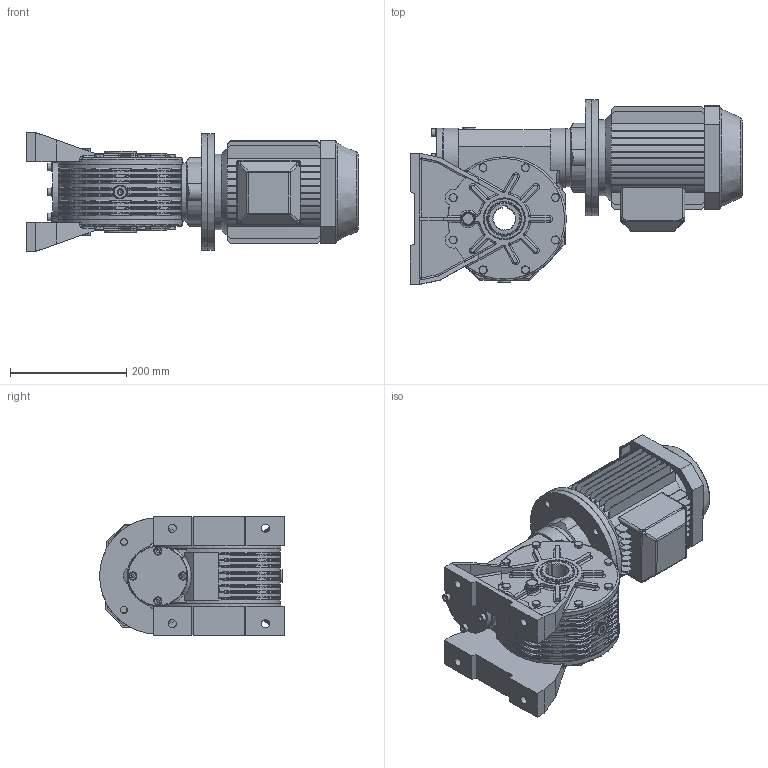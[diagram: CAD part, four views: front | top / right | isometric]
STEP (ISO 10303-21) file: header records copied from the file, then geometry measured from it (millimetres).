
FILE_DESCRIPTION((''),'2;1');
FILE_NAME('Y:\Archivi Inventor\Prog_01\GRAND_50\complessivi\Figurini\MRV50 sito\90l\mrv50_P3_90L_B5.stp','2013-02-06T15:31:39',('tech3'),(''),'Autodesk Inventor 2013','Autodesk Inventor 2013','');
FILE_SCHEMA(('AUTOMOTIVE_DESIGN { 1 0 10303 214 1 1 1 1 }'));
Length unit declared in the file: millimetre
Products named in the file (18): mrv50_80_90l_90s_b5; mrv50_fig; Figurino_carcassa_MRV50; 0105028; 0105029; figurino_corona_MRV50; figurino_0105010; Guarnizione 3_8 GAS; Tappo 3_8 GAS_esagn_incsst; Tappo3_8 GAS; figurino_0105009; ISO 4017 M8 x 20; 55_70_8; UNI 6592 8.4 x 14; UNI 5931  M 8 x  25; 0105006; ISO 4762 M8 x 20; motori B5 90L
Assembly tree (50 placements, depth 3):
  mrv50_80_90l_90s_b5
    mrv50_fig
      Figurino_carcassa_MRV50
      0105028  x2
      0105029  x2
      figurino_corona_MRV50
      figurino_0105010  x2
      Guarnizione 3_8 GAS  x4
      Tappo 3_8 GAS_esagn_incsst  x2
      Tappo3_8 GAS  x2
      figurino_0105009
      ISO 4017 M8 x 20  x16
      55_70_8  x2
      UNI 6592 8.4 x 14  x4
      UNI 5931  M 8 x  25  x4
    0105006
    ISO 4762 M8 x 20  x4
    motori B5 90L
Bounding box: 570.35 x 317.5 x 203.7 mm (x, y, z)
Volume: 11634303.1 mm3; surface area: 1302958.1 mm2
Topology: 61 solids, 63 shells, 2185 faces, 5225 edges, 3088 vertices
Faces by surface type: plane 889, cylinder 673, cone 216, torus 175, bspline 162, sphere 70
Full cylindrical faces by diameter (mm): 2 x2, 6.647 x24, 8 x26, 8.4 x4, 8.5 x48, 11.63 x16, 12 x8, 13 x12, 13.046 x2, 14 x8, 14.95 x4, 16.3 x4, 16.5 x2, 22 x8, 24 x3, 55 x1, 60 x1, 66.4 x2, 69 x2, 70 x5, 72 x4, 73 x2, 75 x1, 99.5 x2, 100 x1, 101 x1, 102 x2, 114.4 x1, 124 x1, 130 x3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
Entity records: 52262 total; most frequent: CARTESIAN_POINT 17459, DIRECTION 7224, ORIENTED_EDGE 6670, EDGE_CURVE 3335, AXIS2_PLACEMENT_3D 2826, VERTEX_POINT 2141, EDGE_LOOP 1862, VECTOR 1572
